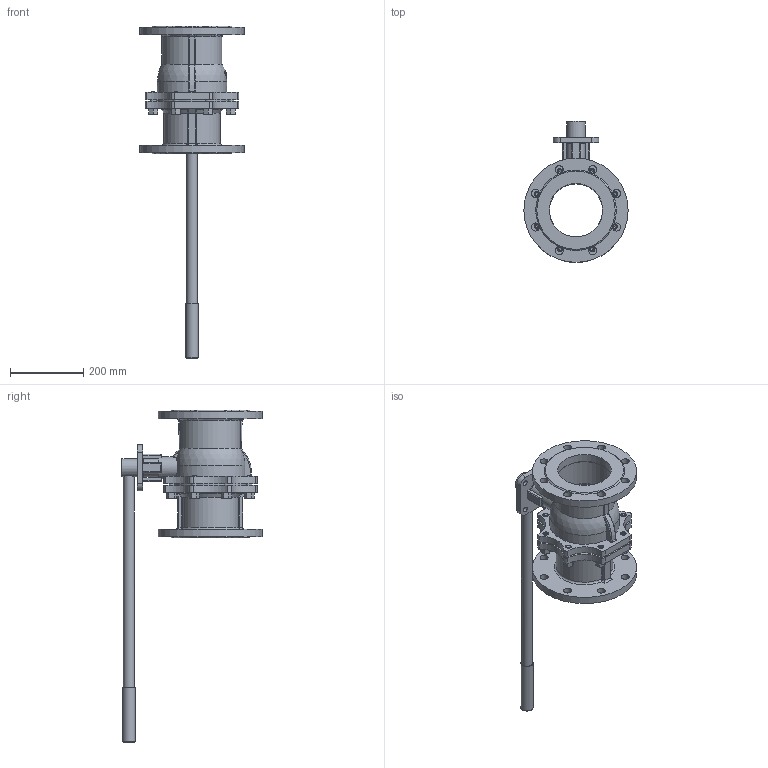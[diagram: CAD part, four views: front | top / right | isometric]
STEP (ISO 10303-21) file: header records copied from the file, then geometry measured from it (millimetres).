
FILE_DESCRIPTION(('STEP AP242'), '1');
FILE_NAME('BV3232P(2pc)-FP-F-ISO-H Êðàí øàðîâîé DN.ru Äó150 Ðó16 27õ27', '', ('UNSPECIFIED'), ('UNSPECIFIED'), 'C3D Converter', 'C3D Toolkit', '');
FILE_SCHEMA(('AP242_MANAGED_MODEL_BASED_3D_ENGINEERING_MIM_LF { 1 0 10303 442 1 1 4 }'));
Length unit declared in the file: millimetre
Products named in the file (1): BV3232P(2pc)-FP-F-ISO-H
Bounding box: 285 x 385.5 x 908.19 mm (x, y, z)
Volume: 5744798 mm3; surface area: 896074.9 mm2
Topology: 1 solids, 3 shells, 654 faces, 1610 edges, 980 vertices
Faces by surface type: plane 294, cylinder 145, cone 139, bspline 37, sphere 20, torus 19
Full cylindrical faces by diameter (mm): 13.835 x8, 14 x4, 15 x8, 16 x8, 22 x16, 30 x1, 34 x1, 50 x2, 60 x2, 145 x3, 146 x2, 146.57 x1, 150 x1, 155 x2, 160 x1, 170 x1, 200 x1, 285 x2
Entity records: 33323 total; most frequent: CARTESIAN_POINT 16911, DIRECTION 2985, ORIENTED_EDGE 2950, EDGE_CURVE 1475, AXIS2_PLACEMENT_3D 1243, VERTEX_POINT 962, EDGE_LOOP 859, FACE_BOUND 735
